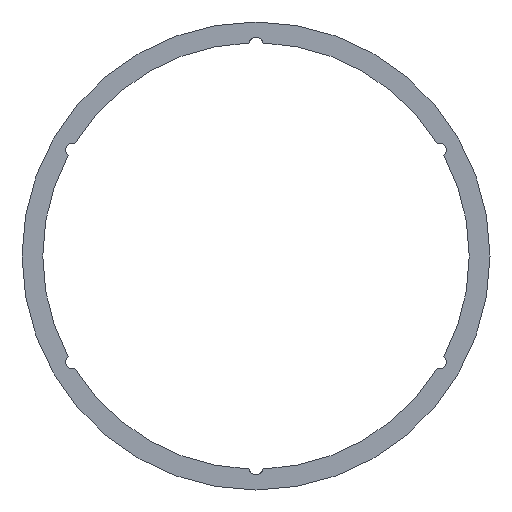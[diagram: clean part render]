
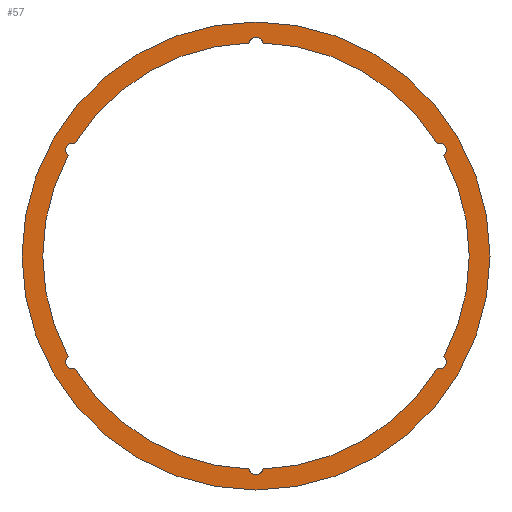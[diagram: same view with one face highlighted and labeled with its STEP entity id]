
A CAD part, front view. The second image highlights one B-rep face of the part: STEP entity #57.
In plain terms, the highlighted planar face has unit normal (0, -1, 0).
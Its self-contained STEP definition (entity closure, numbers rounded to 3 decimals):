
#57 = ADVANCED_FACE( '', ( #114, #115 ), #116, .T. );
#114 = FACE_OUTER_BOUND( '', #169, .T. );
#115 = FACE_BOUND( '', #170, .T. );
#116 = PLANE( '', #171 );
#169 = EDGE_LOOP( '', ( #271 ) );
#170 = EDGE_LOOP( '', ( #272, #273, #274, #275, #276, #277, #278, #279, #280, #281, #282, #283 ) );
#171 = AXIS2_PLACEMENT_3D( '', #284, #285, #286 );
#271 = ORIENTED_EDGE( '', *, *, #366, .T. );
#272 = ORIENTED_EDGE( '', *, *, #331, .F. );
#273 = ORIENTED_EDGE( '', *, *, #328, .T. );
#274 = ORIENTED_EDGE( '', *, *, #361, .F. );
#275 = ORIENTED_EDGE( '', *, *, #367, .T. );
#276 = ORIENTED_EDGE( '', *, *, #368, .F. );
#277 = ORIENTED_EDGE( '', *, *, #369, .T. );
#278 = ORIENTED_EDGE( '', *, *, #358, .F. );
#279 = ORIENTED_EDGE( '', *, *, #351, .T. );
#280 = ORIENTED_EDGE( '', *, *, #370, .F. );
#281 = ORIENTED_EDGE( '', *, *, #355, .T. );
#282 = ORIENTED_EDGE( '', *, *, #364, .F. );
#283 = ORIENTED_EDGE( '', *, *, #347, .T. );
#284 = CARTESIAN_POINT( '', ( -102.5, 0., 0. ) );
#285 = DIRECTION( '', ( 0., -1., 0. ) );
#286 = DIRECTION( '', ( 1., 0., 0. ) );
#328 = EDGE_CURVE( '', #384, #382, #385, .T. );
#331 = EDGE_CURVE( '', #384, #388, #389, .T. );
#347 = EDGE_CURVE( '', #416, #388, #417, .T. );
#351 = EDGE_CURVE( '', #422, #420, #423, .T. );
#355 = EDGE_CURVE( '', #428, #426, #429, .T. );
#358 = EDGE_CURVE( '', #422, #432, #433, .T. );
#361 = EDGE_CURVE( '', #436, #382, #437, .T. );
#364 = EDGE_CURVE( '', #416, #426, #440, .T. );
#366 = EDGE_CURVE( '', #442, #442, #443, .T. );
#367 = EDGE_CURVE( '', #436, #444, #445, .T. );
#368 = EDGE_CURVE( '', #446, #444, #447, .T. );
#369 = EDGE_CURVE( '', #446, #432, #448, .T. );
#370 = EDGE_CURVE( '', #428, #420, #449, .T. );
#382 = VERTEX_POINT( '', #492 );
#384 = VERTEX_POINT( '', #495 );
#385 = CIRCLE( '', #496, 3.25 );
#388 = VERTEX_POINT( '', #500 );
#389 = CIRCLE( '', #501, 102.5 );
#416 = VERTEX_POINT( '', #684 );
#417 = CIRCLE( '', #685, 3.25 );
#420 = VERTEX_POINT( '', #689 );
#422 = VERTEX_POINT( '', #692 );
#423 = CIRCLE( '', #693, 3.25 );
#426 = VERTEX_POINT( '', #697 );
#428 = VERTEX_POINT( '', #700 );
#429 = CIRCLE( '', #701, 3.25 );
#432 = VERTEX_POINT( '', #705 );
#433 = CIRCLE( '', #706, 102.5 );
#436 = VERTEX_POINT( '', #710 );
#437 = CIRCLE( '', #711, 102.5 );
#440 = CIRCLE( '', #715, 102.5 );
#442 = VERTEX_POINT( '', #717 );
#443 = CIRCLE( '', #718, 112.5 );
#444 = VERTEX_POINT( '', #719 );
#445 = CIRCLE( '', #720, 3.25 );
#446 = VERTEX_POINT( '', #721 );
#447 = CIRCLE( '', #722, 102.5 );
#448 = CIRCLE( '', #723, 3.25 );
#449 = CIRCLE( '', #724, 102.5 );
#492 = CARTESIAN_POINT( '', ( 3.219, 0., 102.449 ) );
#495 = CARTESIAN_POINT( '', ( -3.219, 0., 102.449 ) );
#496 = AXIS2_PLACEMENT_3D( '', #735, #736, #737 );
#500 = CARTESIAN_POINT( '', ( -87.114, 0., 54.012 ) );
#501 = AXIS2_PLACEMENT_3D( '', #739, #740, #741 );
#684 = CARTESIAN_POINT( '', ( -90.333, 0., 48.437 ) );
#685 = AXIS2_PLACEMENT_3D( '', #764, #765, #766 );
#689 = CARTESIAN_POINT( '', ( -3.219, 0., -102.449 ) );
#692 = CARTESIAN_POINT( '', ( 3.219, 0., -102.449 ) );
#693 = AXIS2_PLACEMENT_3D( '', #769, #770, #771 );
#697 = CARTESIAN_POINT( '', ( -90.333, 0., -48.437 ) );
#700 = CARTESIAN_POINT( '', ( -87.114, 0., -54.012 ) );
#701 = AXIS2_PLACEMENT_3D( '', #774, #775, #776 );
#705 = CARTESIAN_POINT( '', ( 87.114, 0., -54.012 ) );
#706 = AXIS2_PLACEMENT_3D( '', #778, #779, #780 );
#710 = CARTESIAN_POINT( '', ( 87.114, 0., 54.012 ) );
#711 = AXIS2_PLACEMENT_3D( '', #782, #783, #784 );
#715 = AXIS2_PLACEMENT_3D( '', #786, #787, #788 );
#717 = CARTESIAN_POINT( '', ( 112.5, 0., 0. ) );
#718 = AXIS2_PLACEMENT_3D( '', #789, #790, #791 );
#719 = CARTESIAN_POINT( '', ( 90.333, 0., 48.437 ) );
#720 = AXIS2_PLACEMENT_3D( '', #792, #793, #794 );
#721 = CARTESIAN_POINT( '', ( 90.333, 0., -48.437 ) );
#722 = AXIS2_PLACEMENT_3D( '', #795, #796, #797 );
#723 = AXIS2_PLACEMENT_3D( '', #798, #799, #800 );
#724 = AXIS2_PLACEMENT_3D( '', #801, #802, #803 );
#735 = CARTESIAN_POINT( '', ( 0., 0., 102. ) );
#736 = DIRECTION( '', ( 0., 1., 0. ) );
#737 = DIRECTION( '', ( 1., 0., 0. ) );
#739 = CARTESIAN_POINT( '', ( 0., 0., 0. ) );
#740 = DIRECTION( '', ( 0., -1., 0. ) );
#741 = DIRECTION( '', ( 1., 0., 0. ) );
#764 = CARTESIAN_POINT( '', ( -88.335, 0., 51. ) );
#765 = DIRECTION( '', ( 0., 1., 0. ) );
#766 = DIRECTION( '', ( 0.5, 0., 0.866 ) );
#769 = CARTESIAN_POINT( '', ( 0., 0., -102. ) );
#770 = DIRECTION( '', ( 0., 1., 0. ) );
#771 = DIRECTION( '', ( -1., 0., 0. ) );
#774 = CARTESIAN_POINT( '', ( -88.335, 0., -51. ) );
#775 = DIRECTION( '', ( 0., 1., 0. ) );
#776 = DIRECTION( '', ( -0.5, 0., 0.866 ) );
#778 = CARTESIAN_POINT( '', ( 0., 0., 0. ) );
#779 = DIRECTION( '', ( 0., -1., 0. ) );
#780 = DIRECTION( '', ( 1., 0., 0. ) );
#782 = CARTESIAN_POINT( '', ( 0., 0., 0. ) );
#783 = DIRECTION( '', ( 0., -1., 0. ) );
#784 = DIRECTION( '', ( 1., 0., 0. ) );
#786 = CARTESIAN_POINT( '', ( 0., 0., 0. ) );
#787 = DIRECTION( '', ( 0., -1., 0. ) );
#788 = DIRECTION( '', ( 1., 0., 0. ) );
#789 = CARTESIAN_POINT( '', ( 0., 0., 0. ) );
#790 = DIRECTION( '', ( 0., -1., 0. ) );
#791 = DIRECTION( '', ( 1., 0., 0. ) );
#792 = CARTESIAN_POINT( '', ( 88.335, 0., 51. ) );
#793 = DIRECTION( '', ( 0., 1., 0. ) );
#794 = DIRECTION( '', ( 0.5, 0., -0.866 ) );
#795 = CARTESIAN_POINT( '', ( 0., 0., 0. ) );
#796 = DIRECTION( '', ( 0., -1., 0. ) );
#797 = DIRECTION( '', ( 1., 0., 0. ) );
#798 = CARTESIAN_POINT( '', ( 88.335, 0., -51. ) );
#799 = DIRECTION( '', ( 0., 1., 0. ) );
#800 = DIRECTION( '', ( -0.5, 0., -0.866 ) );
#801 = CARTESIAN_POINT( '', ( 0., 0., 0. ) );
#802 = DIRECTION( '', ( 0., -1., 0. ) );
#803 = DIRECTION( '', ( 1., 0., 0. ) );
